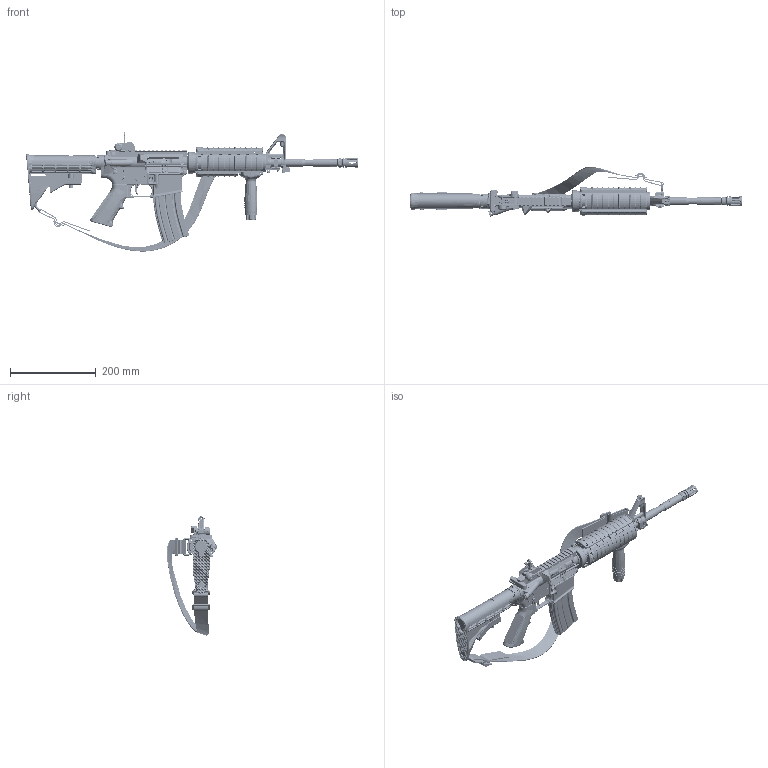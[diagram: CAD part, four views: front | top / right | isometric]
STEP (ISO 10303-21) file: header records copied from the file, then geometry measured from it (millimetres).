
FILE_DESCRIPTION(/* description */ (''),/* implementation_level */ '2;1');
FILE_NAME(/* name */ 'C:/M4A1.step',/* time_stamp */ '2020-03-24T21:34:14+01:00',/* author */ (''),/* organization */ (''),/* preprocessor_version */ 'ST-DEVELOPER v18',/* originating_system */ 'Autodesk Translation Framework v8.12.0.6',/* authorisation */ '');
FILE_SCHEMA (('AUTOMOTIVE_DESIGN { 1 0 10303 214 3 1 1 }'));
Products named in the file (184): M4A1; Upper Receiver Assembly; Gas Tube Assembly; Front Sight; Gas Tube Spring Pin; Gas Tube; Gas Tube Plug; Front Sight Post; Front Sight Detent; Front Sight Detent Spring; Front Sight Taper Pin; Handguard Assembly; Vertical Pistol Grip Assembly; Vertical Pistol Grip O-Ring; Vertical Pistol Grip; Vertical Pistol Grip Lock; Vertical Pistol Grip Lock Cap; Upper Handguard; Upper Handguard Spacer; Handguard Spring; Rear Handguard Clamp; Handguard Spring Pin; Handguard Dowel Pin; Clamp Screw; Screw Retainer; Lower Handguard; Handguard Liner; Oval Head Tubular Rivet; Inverted External Retaining Ring; Handguard Slip Ring; Handguard Slip Ring Spring; Handguard Slip Ring Spring Component; Handguard; 6 Rib Rail Cover Assembly; 6 Rib Rail Cover; 11 Rib Rail Cover Assembly Right; 11 Rib Rail Cover Assembly Top; 11 Rib Rail Cover Assembly Left; 11 Rib Rail Cover; Cover Spring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
Assembly tree (213 placements, depth 6):
  M4A1
    Upper Receiver Assembly
      Gas Tube Assembly
        Front Sight
        Gas Tube Spring Pin
        Gas Tube
        Gas Tube Plug
        Front Sight Post
        Front Sight Detent
        Front Sight Detent Spring
        Front Sight Taper Pin  x2
      Handguard Assembly
        Vertical Pistol Grip Assembly
          Vertical Pistol Grip O-Ring
          Vertical Pistol Grip
          Vertical Pistol Grip Lock
          Vertical Pistol Grip Lock Cap
        Upper Handguard
        Upper Handguard Spacer
        Handguard Spring
        Handguard Spring Pin  x2
        Rear Handguard Clamp
        Handguard Dowel Pin  x2
        Clamp Screw
        Screw Retainer
        Lower Handguard
        Handguard Liner
        Oval Head Tubular Rivet  x4
        Inverted External Retaining Ring
        Handguard Slip Ring
        Handguard Slip Ring Spring
          Handguard Slip Ring Spring Component  x4
        Handguard
          6 Rib Rail Cover Assembly
            6 Rib Rail Cover
            Cover Spring
          11 Rib Rail Cover Assembly Right
            11 Rib Rail Cover
            Cover Spring
          11 Rib Rail Cover Assembly Top
            11 Rib Rail Cover
            Cover Spring
          11 Rib Rail Cover Assembly Left
            11 Rib Rail Cover
            Cover Spring
        Handguard Cap
      Bolt Carrier Group
        Bolt Carrier Assembly
          Bolt Carrier
          Bolt Carrier Key
          Hex Socket Head Cap Screw  x2
        Bolt Assembly
          Extractor Spring Assembly
            Extractor Buffer
            Extractor Spring
          Bolt
          Extractor
          Extractor Pin
          Ejector
          Bolt Ring  x3
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Bounding box: 776.37 x 117.44 x 279.16 mm (x, y, z)
Volume: 1031601.2 mm3; surface area: 807994.5 mm2
Topology: 186 solids, 186 shells, 16719 faces, 42054 edges, 25754 vertices
Faces by surface type: plane 9339, cylinder 3471, bspline 2369, torus 824, cone 533, sphere 183
Full cylindrical faces by diameter (mm): 0.635 x4, 0.87 x2, 0.914 x7, 1.067 x1, 1.143 x3, 1.168 x7, 1.448 x2, 1.524 x1, 1.575 x14, 1.587 x31, 1.588 x1, 1.6 x3, 1.613 x1, 1.727 x1, 1.753 x1, 1.778 x1, 1.905 x1, 1.981 x7, 2.032 x6, 2.134 x7, 2.159 x1, 2.286 x2, 2.311 x2, 2.362 x15, 2.372 x2, 2.388 x6, 2.413 x2, 2.464 x3, 2.489 x1, 2.54 x8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
Entity records: 806500 total; most frequent: CARTESIAN_POINT 438183, ORIENTED_EDGE 78960, DIRECTION 72249, EDGE_CURVE 39480, AXIS2_PLACEMENT_3D 25073, VERTEX_POINT 24308, LINE 22103, VECTOR 22103
